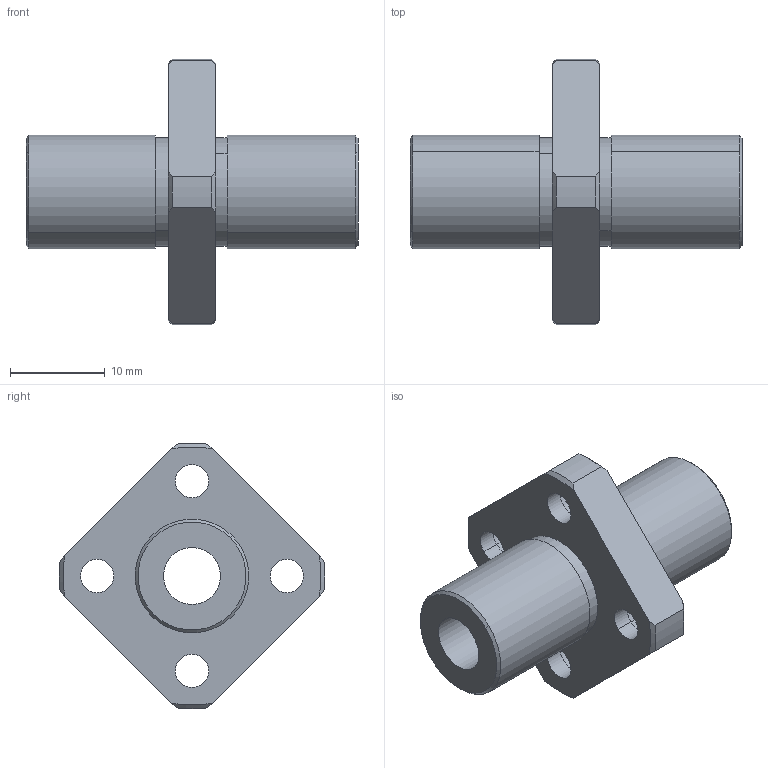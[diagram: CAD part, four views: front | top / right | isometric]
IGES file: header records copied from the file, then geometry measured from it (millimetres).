
Start section: 3D InterOp IGES (Version 21 0 1), Spatial Corp. Copyright (c) 1999-2007.
Global section: file name: NFCS-6VLUU.igs; native system: Spatial Corp.; preprocessor: 3D InterOp GENERIC/IGES 3.0; author: Noname; organization: Noname; date: 20220308.133755; units: millimetre
Bounding box: 35 x 27.98 x 27.98 mm (x, y, z)
Surface area: 3346.7 mm2 (no closed solid volume)
Topology: 0 solids, 0 shells, 56 faces, 276 edges, 276 vertices
Faces by surface type: revolution 42, extrusion 14
